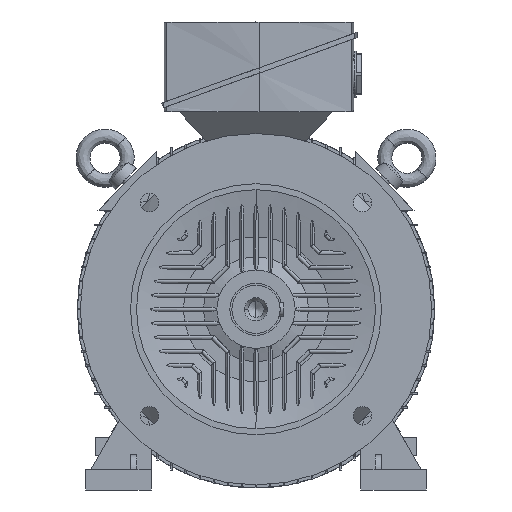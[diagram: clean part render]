
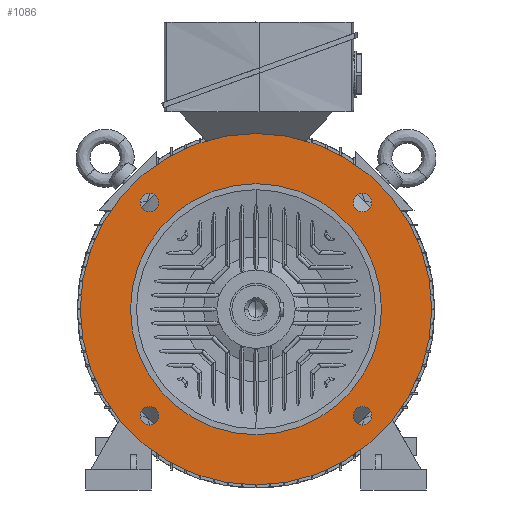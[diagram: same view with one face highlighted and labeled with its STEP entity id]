
A CAD part, left-side view. The second image highlights one B-rep face of the part: STEP entity #1086.
In plain terms, the highlighted planar face has unit normal (-1, 0, 0).
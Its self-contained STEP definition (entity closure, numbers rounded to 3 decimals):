
#939 = CARTESIAN_POINT ( 'NONE',  ( -78., 106.066, 106.066 ) ) ;
#1086 = ADVANCED_FACE ( 'NONE', ( #38043, #44774, #7113, #11271, #7060, #28046 ), #3097, .T. ) ;
#1898 = AXIS2_PLACEMENT_3D ( 'NONE', #42283, #18647, #46200 ) ;
#2374 = CARTESIAN_POINT ( 'NONE',  ( -78., 106.066, 96.816 ) ) ;
#3009 = AXIS2_PLACEMENT_3D ( 'NONE', #45230, #21703, #49114 ) ;
#3097 = PLANE ( 'NONE',  #38499 ) ;
#3479 = EDGE_LOOP ( 'NONE', ( #11092, #5613 ) ) ;
#3935 = AXIS2_PLACEMENT_3D ( 'NONE', #22105, #49518, #26104 ) ;
#4037 = CIRCLE ( 'NONE', #31325, 9.25 ) ;
#4072 = VERTEX_POINT ( 'NONE', #37588 ) ;
#4272 = CIRCLE ( 'NONE', #5003, 9.25 ) ;
#5003 = AXIS2_PLACEMENT_3D ( 'NONE', #32083, #8228, #36024 ) ;
#5028 = DIRECTION ( 'NONE',  ( 0., 0., -1. ) ) ;
#5188 = CARTESIAN_POINT ( 'NONE',  ( -78., 0., 125. ) ) ;
#5613 = ORIENTED_EDGE ( 'NONE', *, *, #49871, .F. ) ;
#6756 = ORIENTED_EDGE ( 'NONE', *, *, #50448, .T. ) ;
#7060 = FACE_BOUND ( 'NONE', #21231, .T. ) ;
#7113 = FACE_BOUND ( 'NONE', #21726, .T. ) ;
#7264 = VERTEX_POINT ( 'NONE', #2374 ) ;
#7945 = CARTESIAN_POINT ( 'NONE',  ( -78., 106.066, -115.316 ) ) ;
#8228 = DIRECTION ( 'NONE',  ( 1., 0., 0. ) ) ;
#8464 = DIRECTION ( 'NONE',  ( 1., 0., 0. ) ) ;
#8584 = DIRECTION ( 'NONE',  ( 1., 0., 0. ) ) ;
#8676 = VERTEX_POINT ( 'NONE', #48175 ) ;
#8776 = ORIENTED_EDGE ( 'NONE', *, *, #45105, .T. ) ;
#8863 = AXIS2_PLACEMENT_3D ( 'NONE', #31082, #31067, #31027 ) ;
#9923 = DIRECTION ( 'NONE',  ( 1., 0., 0. ) ) ;
#10715 = CARTESIAN_POINT ( 'NONE',  ( -78., -106.066, 115.316 ) ) ;
#11087 = AXIS2_PLACEMENT_3D ( 'NONE', #32323, #8464, #36240 ) ;
#11092 = ORIENTED_EDGE ( 'NONE', *, *, #45412, .F. ) ;
#11271 = FACE_BOUND ( 'NONE', #43334, .T. ) ;
#11490 = AXIS2_PLACEMENT_3D ( 'NONE', #33763, #9923, #37637 ) ;
#11740 = VERTEX_POINT ( 'NONE', #7945 ) ;
#11896 = ORIENTED_EDGE ( 'NONE', *, *, #18801, .T. ) ;
#12345 = DIRECTION ( 'NONE',  ( 1., 0., 0. ) ) ;
#12595 = DIRECTION ( 'NONE',  ( 1., 0., 0. ) ) ;
#13314 = ORIENTED_EDGE ( 'NONE', *, *, #49412, .T. ) ;
#14417 = ORIENTED_EDGE ( 'NONE', *, *, #41465, .T. ) ;
#14939 = VERTEX_POINT ( 'NONE', #29727 ) ;
#15393 = VERTEX_POINT ( 'NONE', #10715 ) ;
#15400 = ORIENTED_EDGE ( 'NONE', *, *, #31899, .T. ) ;
#18118 = DIRECTION ( 'NONE',  ( 1., 0., 0. ) ) ;
#18584 = DIRECTION ( 'NONE',  ( -1., 0., 0. ) ) ;
#18647 = DIRECTION ( 'NONE',  ( 1., 0., 0. ) ) ;
#18801 = EDGE_CURVE ( 'NONE', #44692, #15393, #43737, .T. ) ;
#18825 = AXIS2_PLACEMENT_3D ( 'NONE', #36159, #12345, #40019 ) ;
#20283 = CIRCLE ( 'NONE', #35106, 9.25 ) ;
#20798 = ORIENTED_EDGE ( 'NONE', *, *, #48753, .T. ) ;
#21231 = EDGE_LOOP ( 'NONE', ( #8776, #6756 ) ) ;
#21703 = DIRECTION ( 'NONE',  ( 1., 0., 0. ) ) ;
#21726 = EDGE_LOOP ( 'NONE', ( #11896, #14417 ) ) ;
#22095 = VERTEX_POINT ( 'NONE', #32024 ) ;
#22105 = CARTESIAN_POINT ( 'NONE',  ( -78., -106.066, -106.066 ) ) ;
#22109 = CIRCLE ( 'NONE', #1898, 9.25 ) ;
#22405 = CIRCLE ( 'NONE', #25229, 125. ) ;
#25229 = AXIS2_PLACEMENT_3D ( 'NONE', #41759, #18118, #45693 ) ;
#26104 = DIRECTION ( 'NONE',  ( 0., 0., -1. ) ) ;
#27279 = AXIS2_PLACEMENT_3D ( 'NONE', #32429, #8584, #36343 ) ;
#28046 = FACE_BOUND ( 'NONE', #41346, .T. ) ;
#28833 = DIRECTION ( 'NONE',  ( 1., 0., 0. ) ) ;
#29727 = CARTESIAN_POINT ( 'NONE',  ( -78., 0., -125. ) ) ;
#30369 = EDGE_LOOP ( 'NONE', ( #46460, #37806 ) ) ;
#31027 = DIRECTION ( 'NONE',  ( 0., 0., -1. ) ) ;
#31067 = DIRECTION ( 'NONE',  ( 1., 0., 0. ) ) ;
#31082 = CARTESIAN_POINT ( 'NONE',  ( -78., -106.066, 106.066 ) ) ;
#31325 = AXIS2_PLACEMENT_3D ( 'NONE', #36394, #12595, #40269 ) ;
#31899 = EDGE_CURVE ( 'NONE', #7264, #4072, #20283, .T. ) ;
#32024 = CARTESIAN_POINT ( 'NONE',  ( -78., 106.066, -96.816 ) ) ;
#32083 = CARTESIAN_POINT ( 'NONE',  ( -78., 106.066, 106.066 ) ) ;
#32323 = CARTESIAN_POINT ( 'NONE',  ( -78., 0., 0. ) ) ;
#32402 = CIRCLE ( 'NONE', #3935, 9.25 ) ;
#32429 = CARTESIAN_POINT ( 'NONE',  ( -78., 0., 0. ) ) ;
#32783 = CIRCLE ( 'NONE', #27279, 125. ) ;
#33026 = CARTESIAN_POINT ( 'NONE',  ( -78., 150., 0. ) ) ;
#33291 = CARTESIAN_POINT ( 'NONE',  ( -78., -106.066, -96.816 ) ) ;
#33763 = CARTESIAN_POINT ( 'NONE',  ( -78., 106.066, -106.066 ) ) ;
#34119 = EDGE_CURVE ( 'NONE', #36697, #37743, #4037, .T. ) ;
#35106 = AXIS2_PLACEMENT_3D ( 'NONE', #939, #28833, #5028 ) ;
#35178 = VERTEX_POINT ( 'NONE', #39841 ) ;
#36024 = DIRECTION ( 'NONE',  ( 0., 0., -1. ) ) ;
#36159 = CARTESIAN_POINT ( 'NONE',  ( -78., -106.066, 106.066 ) ) ;
#36240 = DIRECTION ( 'NONE',  ( 0., 0., 1. ) ) ;
#36326 = DIRECTION ( 'NONE',  ( 0., 0., 1. ) ) ;
#36343 = DIRECTION ( 'NONE',  ( 0., 0., 1. ) ) ;
#36394 = CARTESIAN_POINT ( 'NONE',  ( -78., -106.066, -106.066 ) ) ;
#36477 = EDGE_CURVE ( 'NONE', #51299, #14939, #32783, .T. ) ;
#36697 = VERTEX_POINT ( 'NONE', #33291 ) ;
#36752 = ORIENTED_EDGE ( 'NONE', *, *, #34119, .T. ) ;
#37588 = CARTESIAN_POINT ( 'NONE',  ( -78., 106.066, 115.316 ) ) ;
#37637 = DIRECTION ( 'NONE',  ( 0., 0., -1. ) ) ;
#37742 = EDGE_CURVE ( 'NONE', #14939, #51299, #22405, .T. ) ;
#37743 = VERTEX_POINT ( 'NONE', #37855 ) ;
#37806 = ORIENTED_EDGE ( 'NONE', *, *, #37742, .T. ) ;
#37855 = CARTESIAN_POINT ( 'NONE',  ( -78., -106.066, -115.316 ) ) ;
#38043 = FACE_BOUND ( 'NONE', #30369, .T. ) ;
#38499 = AXIS2_PLACEMENT_3D ( 'NONE', #33026, #18584, #36326 ) ;
#39841 = CARTESIAN_POINT ( 'NONE',  ( -78., 0., -175. ) ) ;
#40019 = DIRECTION ( 'NONE',  ( 0., 0., -1. ) ) ;
#40269 = DIRECTION ( 'NONE',  ( 0., 0., -1. ) ) ;
#41346 = EDGE_LOOP ( 'NONE', ( #13314, #36752 ) ) ;
#41465 = EDGE_CURVE ( 'NONE', #15393, #44692, #41841, .T. ) ;
#41759 = CARTESIAN_POINT ( 'NONE',  ( -78., 0., 0. ) ) ;
#41841 = CIRCLE ( 'NONE', #18825, 9.25 ) ;
#42030 = CIRCLE ( 'NONE', #3009, 175. ) ;
#42283 = CARTESIAN_POINT ( 'NONE',  ( -78., 106.066, -106.066 ) ) ;
#42449 = CARTESIAN_POINT ( 'NONE',  ( -78., -106.066, 96.816 ) ) ;
#43334 = EDGE_LOOP ( 'NONE', ( #15400, #20798 ) ) ;
#43737 = CIRCLE ( 'NONE', #8863, 9.25 ) ;
#44692 = VERTEX_POINT ( 'NONE', #42449 ) ;
#44774 = FACE_OUTER_BOUND ( 'NONE', #3479, .T. ) ;
#45105 = EDGE_CURVE ( 'NONE', #11740, #22095, #50697, .T. ) ;
#45230 = CARTESIAN_POINT ( 'NONE',  ( -78., 0., 0. ) ) ;
#45412 = EDGE_CURVE ( 'NONE', #8676, #35178, #45529, .T. ) ;
#45529 = CIRCLE ( 'NONE', #11087, 175. ) ;
#45693 = DIRECTION ( 'NONE',  ( 0., 0., 1. ) ) ;
#46200 = DIRECTION ( 'NONE',  ( 0., 0., -1. ) ) ;
#46460 = ORIENTED_EDGE ( 'NONE', *, *, #36477, .T. ) ;
#48175 = CARTESIAN_POINT ( 'NONE',  ( -78., 0., 175. ) ) ;
#48753 = EDGE_CURVE ( 'NONE', #4072, #7264, #4272, .T. ) ;
#49114 = DIRECTION ( 'NONE',  ( 0., 0., 1. ) ) ;
#49412 = EDGE_CURVE ( 'NONE', #37743, #36697, #32402, .T. ) ;
#49518 = DIRECTION ( 'NONE',  ( 1., 0., 0. ) ) ;
#49871 = EDGE_CURVE ( 'NONE', #35178, #8676, #42030, .T. ) ;
#50448 = EDGE_CURVE ( 'NONE', #22095, #11740, #22109, .T. ) ;
#50697 = CIRCLE ( 'NONE', #11490, 9.25 ) ;
#51299 = VERTEX_POINT ( 'NONE', #5188 ) ;
